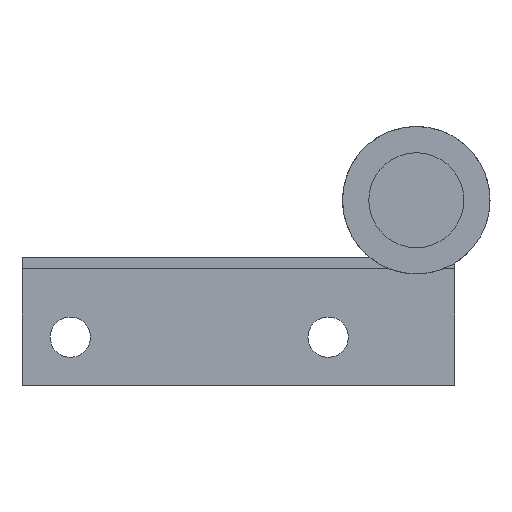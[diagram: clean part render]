
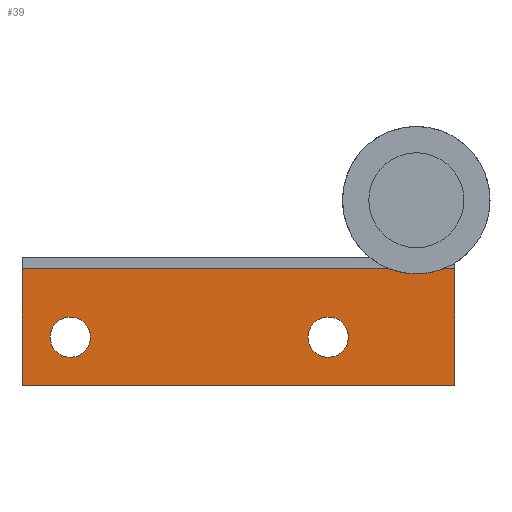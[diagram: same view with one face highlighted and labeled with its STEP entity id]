
A CAD part, front view. The second image highlights one B-rep face of the part: STEP entity #39.
In plain terms, the highlighted planar face has unit normal (0, -1, 0).
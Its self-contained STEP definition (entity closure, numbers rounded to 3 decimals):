
#3 = EDGE_CURVE ( 'NONE', #233, #232, #966, .T. ) ;
#4 = EDGE_CURVE ( 'NONE', #236, #237, #1016, .T. ) ;
#7 = EDGE_CURVE ( 'NONE', #236, #233, #875, .T. ) ;
#39 = ADVANCED_FACE ( 'NONE', ( #762, #781, #773 ), #353, .F. ) ;
#55 = AXIS2_PLACEMENT_3D ( 'NONE', #425, #429, #430 ) ;
#72 = AXIS2_PLACEMENT_3D ( 'NONE', #357, #358, #359 ) ;
#80 = AXIS2_PLACEMENT_3D ( 'NONE', #479, #484, #485 ) ;
#82 = AXIS2_PLACEMENT_3D ( 'NONE', #407, #409, #410 ) ;
#91 = AXIS2_PLACEMENT_3D ( 'NONE', #420, #421, #422 ) ;
#124 = EDGE_CURVE ( 'NONE', #211, #208, #726, .T. ) ;
#129 = EDGE_CURVE ( 'NONE', #206, #209, #720, .T. ) ;
#132 = EDGE_CURVE ( 'NONE', #237, #232, #738, .T. ) ;
#133 = EDGE_CURVE ( 'NONE', #208, #211, #755, .T. ) ;
#157 = EDGE_CURVE ( 'NONE', #209, #206, #699, .T. ) ;
#179 = CARTESIAN_POINT ( 'NONE',  ( -48.95, 408.2, -23. ) ) ;
#206 = VERTEX_POINT ( 'NONE', #560 ) ;
#208 = VERTEX_POINT ( 'NONE', #562 ) ;
#209 = VERTEX_POINT ( 'NONE', #563 ) ;
#211 = VERTEX_POINT ( 'NONE', #565 ) ;
#232 = VERTEX_POINT ( 'NONE', #586 ) ;
#233 = VERTEX_POINT ( 'NONE', #587 ) ;
#236 = VERTEX_POINT ( 'NONE', #590 ) ;
#237 = VERTEX_POINT ( 'NONE', #591 ) ;
#243 = CARTESIAN_POINT ( 'NONE',  ( 4.75, 408.2, -23. ) ) ;
#244 = DIRECTION ( 'NONE',  ( 0., 0., -1. ) ) ;
#246 = DIRECTION ( 'NONE',  ( 0., 0., -1. ) ) ;
#251 = CARTESIAN_POINT ( 'NONE',  ( 9.15, 408.2, -8.5 ) ) ;
#252 = DIRECTION ( 'NONE',  ( -1., 0., 0. ) ) ;
#353 = PLANE ( 'NONE',  #72 ) ;
#357 = CARTESIAN_POINT ( 'NONE',  ( 9.15, 408.2, -23. ) ) ;
#358 = DIRECTION ( 'NONE',  ( 0., 1., 0. ) ) ;
#359 = DIRECTION ( 'NONE',  ( 1., 0., 0. ) ) ;
#407 = CARTESIAN_POINT ( 'NONE',  ( -42.95, 408.2, -17. ) ) ;
#409 = DIRECTION ( 'NONE',  ( 0., 1., 0. ) ) ;
#410 = DIRECTION ( 'NONE',  ( 1., 0., 0. ) ) ;
#420 = CARTESIAN_POINT ( 'NONE',  ( -10.95, 408.2, -17. ) ) ;
#421 = DIRECTION ( 'NONE',  ( 0., 1., 0. ) ) ;
#422 = DIRECTION ( 'NONE',  ( 1., 0., 0. ) ) ;
#425 = CARTESIAN_POINT ( 'NONE',  ( -42.95, 408.2, -17. ) ) ;
#427 = CARTESIAN_POINT ( 'NONE',  ( 9.15, 408.2, -23. ) ) ;
#428 = DIRECTION ( 'NONE',  ( -1., 0., 0. ) ) ;
#429 = DIRECTION ( 'NONE',  ( 0., 1., 0. ) ) ;
#430 = DIRECTION ( 'NONE',  ( 1., 0., 0. ) ) ;
#479 = CARTESIAN_POINT ( 'NONE',  ( -10.95, 408.2, -17. ) ) ;
#484 = DIRECTION ( 'NONE',  ( 0., 1., 0. ) ) ;
#485 = DIRECTION ( 'NONE',  ( 1., 0., 0. ) ) ;
#560 = CARTESIAN_POINT ( 'NONE',  ( -13.45, 408.2, -17. ) ) ;
#562 = CARTESIAN_POINT ( 'NONE',  ( -45.45, 408.2, -17. ) ) ;
#563 = CARTESIAN_POINT ( 'NONE',  ( -8.45, 408.2, -17. ) ) ;
#565 = CARTESIAN_POINT ( 'NONE',  ( -40.45, 408.2, -17. ) ) ;
#586 = CARTESIAN_POINT ( 'NONE',  ( -48.95, 408.2, -23. ) ) ;
#587 = CARTESIAN_POINT ( 'NONE',  ( -48.95, 408.2, -8.5 ) ) ;
#590 = CARTESIAN_POINT ( 'NONE',  ( 4.75, 408.2, -8.5 ) ) ;
#591 = CARTESIAN_POINT ( 'NONE',  ( 4.75, 408.2, -23. ) ) ;
#699 = CIRCLE ( 'NONE', #80, 2.5 ) ;
#720 = CIRCLE ( 'NONE', #91, 2.5 ) ;
#726 = CIRCLE ( 'NONE', #82, 2.5 ) ;
#738 = LINE ( 'NONE', #427, #739 ) ;
#739 = VECTOR ( 'NONE', #428, 1000. ) ;
#755 = CIRCLE ( 'NONE', #55, 2.5 ) ;
#762 = FACE_BOUND ( 'NONE', #829, .T. ) ;
#773 = FACE_OUTER_BOUND ( 'NONE', #826, .T. ) ;
#781 = FACE_BOUND ( 'NONE', #827, .T. ) ;
#805 = ORIENTED_EDGE ( 'NONE', *, *, #132, .F. ) ;
#826 = EDGE_LOOP ( 'NONE', ( #847, #848, #805, #908 ) ) ;
#827 = EDGE_LOOP ( 'NONE', ( #863, #846 ) ) ;
#829 = EDGE_LOOP ( 'NONE', ( #861, #862 ) ) ;
#846 = ORIENTED_EDGE ( 'NONE', *, *, #124, .T. ) ;
#847 = ORIENTED_EDGE ( 'NONE', *, *, #7, .T. ) ;
#848 = ORIENTED_EDGE ( 'NONE', *, *, #3, .T. ) ;
#861 = ORIENTED_EDGE ( 'NONE', *, *, #129, .T. ) ;
#862 = ORIENTED_EDGE ( 'NONE', *, *, #157, .T. ) ;
#863 = ORIENTED_EDGE ( 'NONE', *, *, #133, .T. ) ;
#874 = VECTOR ( 'NONE', #252, 1000. ) ;
#875 = LINE ( 'NONE', #251, #874 ) ;
#908 = ORIENTED_EDGE ( 'NONE', *, *, #4, .F. ) ;
#928 = VECTOR ( 'NONE', #244, 1000. ) ;
#933 = VECTOR ( 'NONE', #246, 1000. ) ;
#966 = LINE ( 'NONE', #179, #928 ) ;
#1016 = LINE ( 'NONE', #243, #933 ) ;
